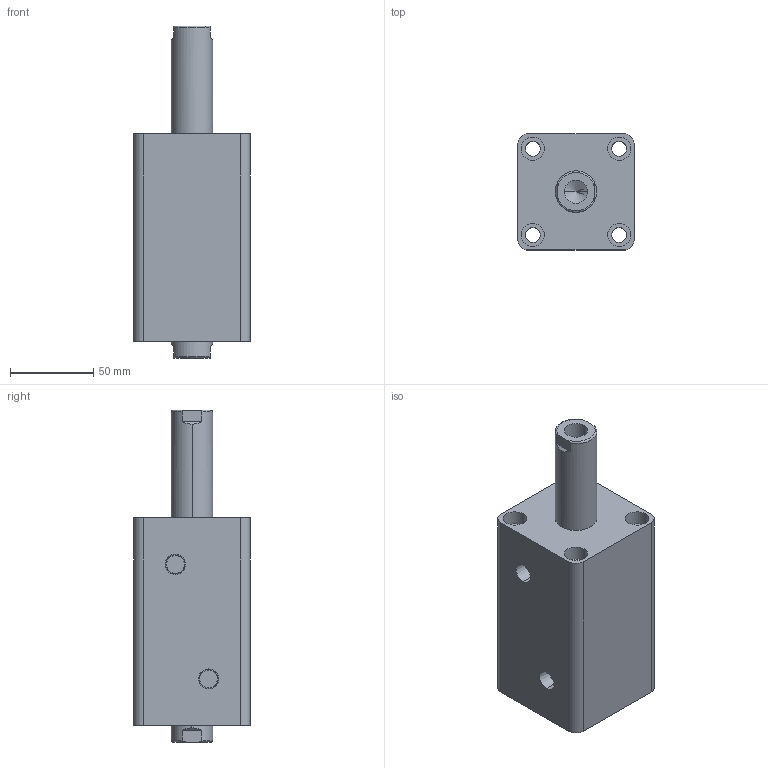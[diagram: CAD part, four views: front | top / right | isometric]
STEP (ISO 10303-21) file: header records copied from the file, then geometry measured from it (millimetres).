
FILE_DESCRIPTION (( 'STEP AP203' ), '1' );
FILE_NAME ('HTB-SW40-55N.STEP', '2019-10-07T09:09:04', ( '微软用户' ), ( '微软中国' ), 'SwSTEP 2.0', 'SolidWorks 2012', '' );
FILE_SCHEMA (( 'CONFIG_CONTROL_DESIGN' ));
Length unit declared in the file: millimetre
Products named in the file (3): HTB-SW40-55N; HTB-SW40-55N活塞杆; HTB-SW40-55掛极
Assembly tree (2 placements, depth 2):
  HTB-SW40-55N
    HTB-SW40-55掛极
    HTB-SW40-55N活塞杆
Bounding box: 70 x 70 x 200 mm (x, y, z)
Volume: 556639.7 mm3; surface area: 93094.9 mm2
Topology: 2 solids, 2 shells, 100 faces, 228 edges, 146 vertices
Faces by surface type: cylinder 48, plane 32, torus 12, cone 8
Entity records: 3237 total; most frequent: CARTESIAN_POINT 595, DIRECTION 542, ORIENTED_EDGE 448, AXIS2_PLACEMENT_3D 229, EDGE_CURVE 224, VERTEX_POINT 146, EDGE_LOOP 128, CIRCLE 124
